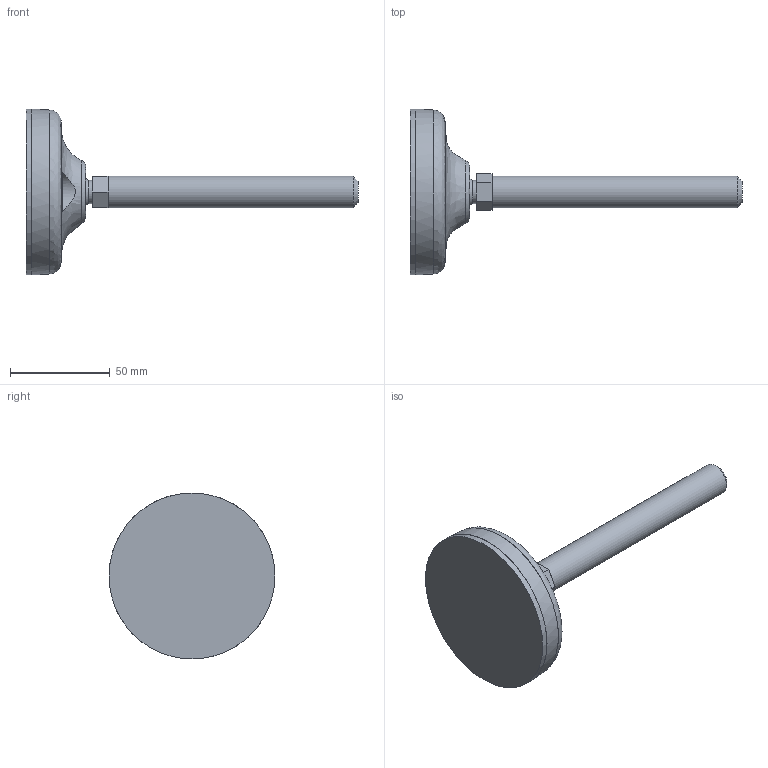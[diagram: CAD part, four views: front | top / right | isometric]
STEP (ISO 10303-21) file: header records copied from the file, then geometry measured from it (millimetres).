
FILE_DESCRIPTION(('STEP AP203'),'2;1');
FILE_NAME('10301.stp','2013-06-04T09:15:01',(''),(''),'2008.1.107','THINKDESIGN','');
FILE_SCHEMA(('CONFIG_CONTROL_DESIGN'));
Length unit declared in the file: millimetre
Bounding box: 166 x 83 x 83 mm (x, y, z)
Volume: 42997.4 mm3; surface area: 33717.7 mm2
Topology: 3 solids, 3 shells, 30 faces, 81 edges, 67 vertices
Faces by surface type: plane 19, bspline 6, cylinder 5
Full cylindrical faces by diameter (mm): 11.64 x1, 16 x1, 83 x1
Entity records: 1352 total; most frequent: CARTESIAN_POINT 599, DIRECTION 131, ORIENTED_EDGE 62, AXIS2_PLACEMENT_3D 50, COMPOSITE_CURVE_SEGMENT 44, VECTOR 31, LINE 31, EDGE_CURVE 31
